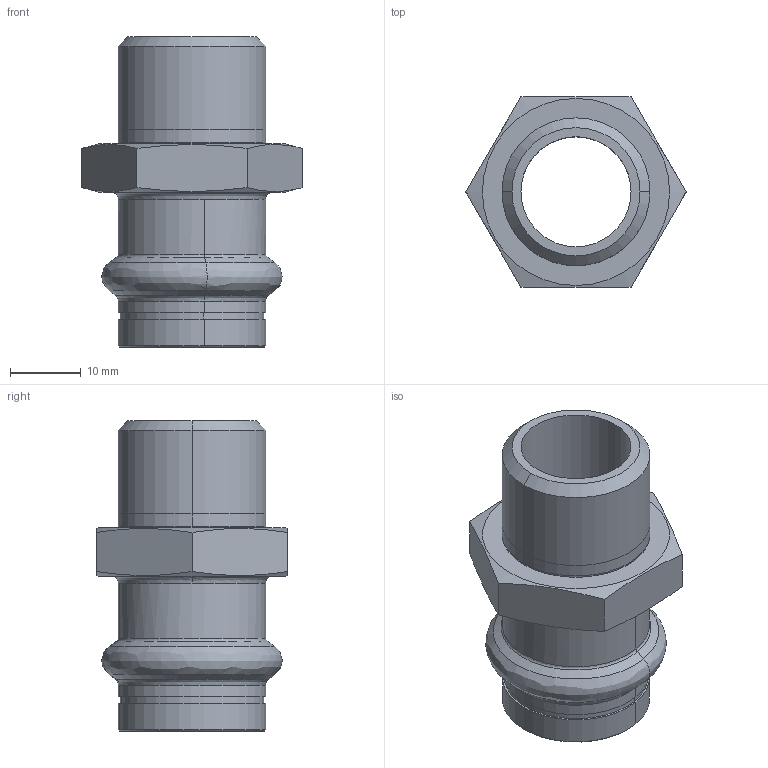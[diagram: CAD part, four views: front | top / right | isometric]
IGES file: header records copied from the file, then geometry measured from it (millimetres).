
Start section: Elysium IGES Interface
Global section: file name: C:\3d modellen sudo\C-Pr VP\SP8243GV\8243GVW1812.igs; native system: CoCreate Modeling 17.00A  17-Jun-2010; preprocessor: CoCreate IGES_3D V2.2; author: Unknown; organization: Unknown; date: 20130305.103125; units: millimetre
Bounding box: 31.18 x 27 x 44 mm (x, y, z)
Volume: 7722.4 mm3; surface area: 6484.4 mm2
Topology: 1 solids, 1 shells, 60 faces, 132 edges, 80 vertices
Faces by surface type: bspline 60
